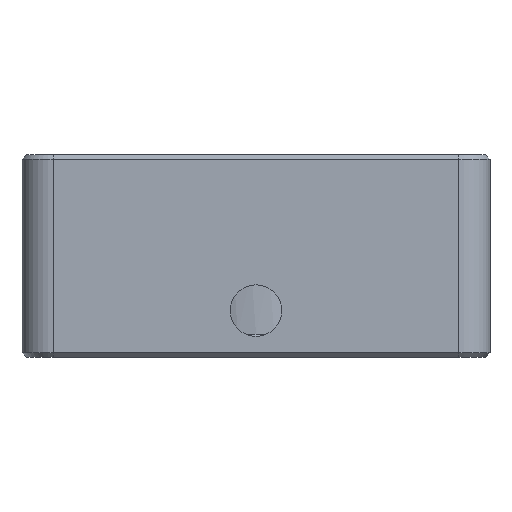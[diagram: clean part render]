
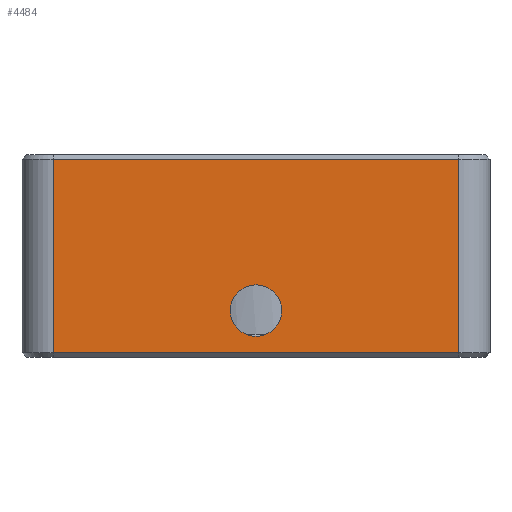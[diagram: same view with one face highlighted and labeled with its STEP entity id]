
A CAD part, front view. The second image highlights one B-rep face of the part: STEP entity #4484.
In plain terms, the highlighted planar face has unit normal (0, -1, 0).
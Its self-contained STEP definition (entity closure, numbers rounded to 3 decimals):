
#89 = CARTESIAN_POINT ( 'NONE',  ( -13., -17., 13. ) ) ;
#321 = PLANE ( 'NONE',  #3160 ) ;
#505 = EDGE_CURVE ( 'NONE', #7388, #9251, #11534, .T. ) ;
#911 = EDGE_CURVE ( 'NONE', #4125, #9906, #8890, .T. ) ;
#1123 = DIRECTION ( 'NONE',  ( -1., 0., 0. ) ) ;
#1168 = DIRECTION ( 'NONE',  ( 0., 0., 1. ) ) ;
#1257 = CARTESIAN_POINT ( 'NONE',  ( -13., -17., 0.3 ) ) ;
#1409 = AXIS2_PLACEMENT_3D ( 'NONE', #6463, #7566, #5467 ) ;
#1750 = VECTOR ( 'NONE', #11612, 1000. ) ;
#2203 = ORIENTED_EDGE ( 'NONE', *, *, #7183, .T. ) ;
#2226 = VECTOR ( 'NONE', #1168, 1000. ) ;
#2386 = VECTOR ( 'NONE', #1123, 1000. ) ;
#3160 = AXIS2_PLACEMENT_3D ( 'NONE', #8259, #11009, #9120 ) ;
#4125 = VERTEX_POINT ( 'NONE', #1257 ) ;
#4203 = DIRECTION ( 'NONE',  ( 0., -1., 0. ) ) ;
#4484 = ADVANCED_FACE ( 'NONE', ( #8210, #9847 ), #321, .F. ) ;
#4491 = VECTOR ( 'NONE', #4633, 1000. ) ;
#4608 = CARTESIAN_POINT ( 'NONE',  ( 0., -17., 1.35 ) ) ;
#4633 = DIRECTION ( 'NONE',  ( 1., 0., 0. ) ) ;
#4780 = LINE ( 'NONE', #8865, #2226 ) ;
#5043 = DIRECTION ( 'NONE',  ( 0., 0., -1. ) ) ;
#5376 = LINE ( 'NONE', #7821, #2386 ) ;
#5467 = DIRECTION ( 'NONE',  ( 0., 0., -1. ) ) ;
#6179 = ORIENTED_EDGE ( 'NONE', *, *, #505, .F. ) ;
#6297 = LINE ( 'NONE', #89, #1750 ) ;
#6463 = CARTESIAN_POINT ( 'NONE',  ( 0., -17., 3. ) ) ;
#6488 = CARTESIAN_POINT ( 'NONE',  ( -13., -17., 12.7 ) ) ;
#6822 = VERTEX_POINT ( 'NONE', #6488 ) ;
#7118 = EDGE_CURVE ( 'NONE', #9960, #6822, #5376, .T. ) ;
#7183 = EDGE_CURVE ( 'NONE', #9906, #9960, #4780, .T. ) ;
#7388 = VERTEX_POINT ( 'NONE', #10474 ) ;
#7520 = EDGE_CURVE ( 'NONE', #6822, #4125, #6297, .T. ) ;
#7566 = DIRECTION ( 'NONE',  ( 0., -1., 0. ) ) ;
#7658 = AXIS2_PLACEMENT_3D ( 'NONE', #9987, #4203, #5043 ) ;
#7821 = CARTESIAN_POINT ( 'NONE',  ( -13., -17., 12.7 ) ) ;
#8055 = EDGE_CURVE ( 'NONE', #9251, #7388, #12295, .T. ) ;
#8210 = FACE_BOUND ( 'NONE', #8599, .T. ) ;
#8259 = CARTESIAN_POINT ( 'NONE',  ( -15., -17., 13. ) ) ;
#8565 = EDGE_LOOP ( 'NONE', ( #9823, #11501, #2203, #9451 ) ) ;
#8599 = EDGE_LOOP ( 'NONE', ( #11280, #6179 ) ) ;
#8865 = CARTESIAN_POINT ( 'NONE',  ( 13., -17., 13. ) ) ;
#8890 = LINE ( 'NONE', #11240, #4491 ) ;
#9120 = DIRECTION ( 'NONE',  ( 0., 0., 1. ) ) ;
#9251 = VERTEX_POINT ( 'NONE', #4608 ) ;
#9451 = ORIENTED_EDGE ( 'NONE', *, *, #7118, .T. ) ;
#9689 = CARTESIAN_POINT ( 'NONE',  ( 13., -17., 0.3 ) ) ;
#9823 = ORIENTED_EDGE ( 'NONE', *, *, #7520, .T. ) ;
#9847 = FACE_OUTER_BOUND ( 'NONE', #8565, .T. ) ;
#9906 = VERTEX_POINT ( 'NONE', #9689 ) ;
#9960 = VERTEX_POINT ( 'NONE', #9986 ) ;
#9986 = CARTESIAN_POINT ( 'NONE',  ( 13., -17., 12.7 ) ) ;
#9987 = CARTESIAN_POINT ( 'NONE',  ( 0., -17., 3. ) ) ;
#10474 = CARTESIAN_POINT ( 'NONE',  ( 0., -17., 4.65 ) ) ;
#11009 = DIRECTION ( 'NONE',  ( 0., 1., 0. ) ) ;
#11240 = CARTESIAN_POINT ( 'NONE',  ( -15., -17., 0.3 ) ) ;
#11280 = ORIENTED_EDGE ( 'NONE', *, *, #8055, .F. ) ;
#11501 = ORIENTED_EDGE ( 'NONE', *, *, #911, .T. ) ;
#11534 = CIRCLE ( 'NONE', #7658, 1.65 ) ;
#11612 = DIRECTION ( 'NONE',  ( 0., 0., -1. ) ) ;
#12295 = CIRCLE ( 'NONE', #1409, 1.65 ) ;
